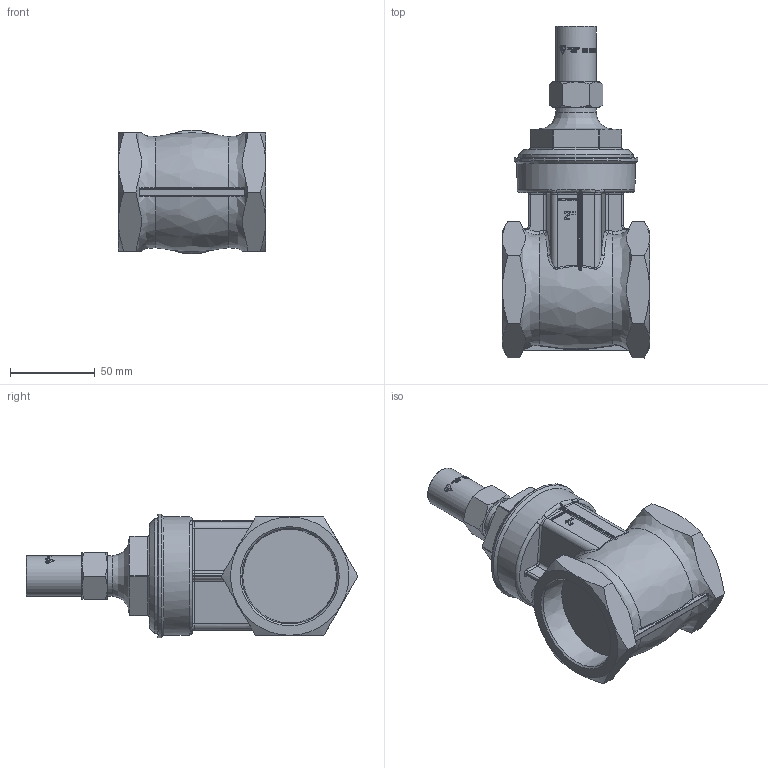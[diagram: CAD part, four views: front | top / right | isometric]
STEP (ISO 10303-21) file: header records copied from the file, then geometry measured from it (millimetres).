
FILE_DESCRIPTION((''),'2;1');
FILE_NAME('P:\Fastrack\53972_CRANE 3D\Gate Valves\Work Space\Lockshield\33XLS_2in\33XLS_2in.stp','2011-03-11T08:47:12',('btaylor'),(''),'Autodesk Inventor 2008','Autodesk Inventor 2008','');
FILE_SCHEMA(('AUTOMOTIVE_DESIGN { 1 0 10303 214 1 1 1 1 }'));
Length unit declared in the file: millimetre
Products named in the file (1): 33XLS_2in
Bounding box: 87 x 196.41 x 73.2 mm (x, y, z)
Volume: 456943.2 mm3; surface area: 59598.5 mm2
Topology: 1 solids, 1 shells, 970 faces, 2548 edges, 1654 vertices
Faces by surface type: plane 453, bspline 366, cylinder 93, cone 50, torus 8
Full cylindrical faces by diameter (mm): 6 x1, 11.2 x1, 11.5 x1, 16.7 x1, 18 x1, 22.376 x1, 24 x2, 67.8 x1, 70 x1, 73.2 x1
Entity records: 95045 total; most frequent: CARTESIAN_POINT 73184, ORIENTED_EDGE 4992, DIRECTION 3074, EDGE_CURVE 2496, VERTEX_POINT 1642, VECTOR 1232, LINE 1232, EDGE_LOOP 1082
